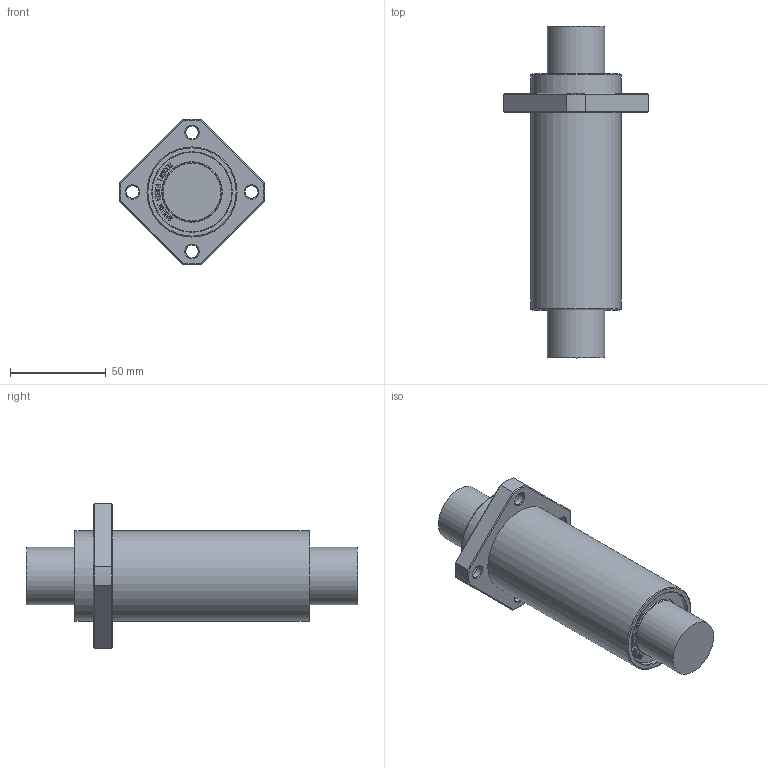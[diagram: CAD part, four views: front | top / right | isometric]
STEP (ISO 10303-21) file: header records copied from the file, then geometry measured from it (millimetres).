
FILE_DESCRIPTION(/* description */ (''),/* implementation_level */ '2;1');
FILE_NAME(/* name */ 'W:\(01) 2024년 홈페이지 CAD파일 최신화\LMEKP_L\IPT\LMEKP30LUU.stp',/* time_stamp */ '2025-01-25T13:04:01+09:00',/* author */ ('서우현'),/* organization */ (''),/* preprocessor_version */ 'ST-DEVELOPER v17.2',/* originating_system */ 'Autodesk Inventor 2019',/* authorisation */ '');
FILE_SCHEMA (('AUTOMOTIVE_DESIGN { 1 0 10303 214 3 1 1 }'));
Length unit declared in the file: millimetre
Products named in the file (1): LM5
Bounding box: 75.93 x 173 x 75.93 mm (x, y, z)
Volume: 260628.7 mm3; surface area: 32314.1 mm2
Topology: 1 solids, 1 shells, 890 faces, 2496 edges, 1664 vertices
Faces by surface type: bspline 616, plane 234, cone 20, cylinder 18, torus 2
Full cylindrical faces by diameter (mm): 6.6 x4, 11 x4, 30 x2, 41.4 x2, 47 x2
Entity records: 30515 total; most frequent: CARTESIAN_POINT 11323, ORIENTED_EDGE 4992, EDGE_CURVE 2496, DIRECTION 1888, VERTEX_POINT 1664, B_SPLINE_CURVE_WITH_KNOTS 1232, LINE 1158, VECTOR 1158
